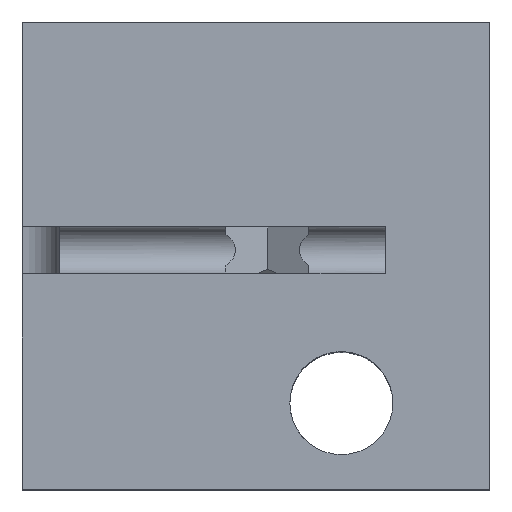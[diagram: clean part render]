
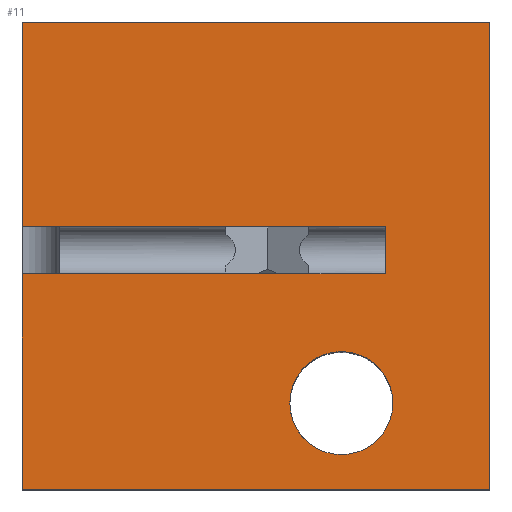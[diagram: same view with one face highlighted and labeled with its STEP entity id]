
A CAD part, top view. The second image highlights one B-rep face of the part: STEP entity #11.
In plain terms, the highlighted planar face has unit normal (0, 0, 1).
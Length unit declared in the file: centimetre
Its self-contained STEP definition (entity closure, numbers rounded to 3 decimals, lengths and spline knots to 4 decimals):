
#11 = ADVANCED_FACE ( 'NONE', ( #721, #1024 ), #741, .T. ) ;
#31 = VERTEX_POINT ( 'NONE', #2049 ) ;
#57 = LINE ( 'NONE', #2037, #244 ) ;
#82 = CARTESIAN_POINT ( 'NONE',  ( 776.3953, 562.9824, 1000. ) ) ;
#91 = DIRECTION ( 'NONE',  ( -1., 0., 0. ) ) ;
#107 = CARTESIAN_POINT ( 'NONE',  ( 0., 1000., 1000. ) ) ;
#117 = CARTESIAN_POINT ( 'NONE',  ( 0., 1000., 1000. ) ) ;
#139 = VERTEX_POINT ( 'NONE', #1969 ) ;
#176 = LINE ( 'NONE', #862, #1399 ) ;
#191 = DIRECTION ( 'NONE',  ( 0., 0., 1. ) ) ;
#227 = VERTEX_POINT ( 'NONE', #1339 ) ;
#238 = ORIENTED_EDGE ( 'NONE', *, *, #1208, .T. ) ;
#241 = VERTEX_POINT ( 'NONE', #999 ) ;
#244 = VECTOR ( 'NONE', #1862, 100. ) ;
#247 = VECTOR ( 'NONE', #806, 100. ) ;
#284 = LINE ( 'NONE', #1763, #247 ) ;
#336 = CARTESIAN_POINT ( 'NONE',  ( 682.7021, 184.3024, 1000. ) ) ;
#390 = VECTOR ( 'NONE', #1286, 100. ) ;
#457 = ORIENTED_EDGE ( 'NONE', *, *, #621, .T. ) ;
#459 = ORIENTED_EDGE ( 'NONE', *, *, #979, .T. ) ;
#476 = EDGE_CURVE ( 'NONE', #241, #31, #57, .T. ) ;
#481 = CIRCLE ( 'NONE', #1073, 110.3037 ) ;
#554 = DIRECTION ( 'NONE',  ( 1., 0., 0. ) ) ;
#563 = AXIS2_PLACEMENT_3D ( 'NONE', #336, #1804, #1815 ) ;
#621 = EDGE_CURVE ( 'NONE', #2168, #680, #952, .T. ) ;
#660 = CARTESIAN_POINT ( 'NONE',  ( 1000., 0., 1000. ) ) ;
#669 = CIRCLE ( 'NONE', #563, 110.3037 ) ;
#679 = EDGE_CURVE ( 'NONE', #1416, #2039, #669, .T. ) ;
#680 = VERTEX_POINT ( 'NONE', #117 ) ;
#696 = LINE ( 'NONE', #2045, #1832 ) ;
#721 = FACE_BOUND ( 'NONE', #1753, .T. ) ;
#724 = VERTEX_POINT ( 'NONE', #660 ) ;
#731 = CARTESIAN_POINT ( 'NONE',  ( 0., 0., 1000. ) ) ;
#741 = PLANE ( 'NONE',  #1772 ) ;
#778 = ORIENTED_EDGE ( 'NONE', *, *, #1434, .T. ) ;
#806 = DIRECTION ( 'NONE',  ( 0., -1., 0. ) ) ;
#821 = LINE ( 'NONE', #1171, #1020 ) ;
#822 = EDGE_CURVE ( 'NONE', #724, #2168, #176, .T. ) ;
#842 = DIRECTION ( 'NONE',  ( 0., 1., 0. ) ) ;
#862 = CARTESIAN_POINT ( 'NONE',  ( 1000., 1000., 1000. ) ) ;
#895 = ORIENTED_EDGE ( 'NONE', *, *, #476, .T. ) ;
#896 = CARTESIAN_POINT ( 'NONE',  ( 572.3984, 184.3024, 1000. ) ) ;
#952 = LINE ( 'NONE', #107, #1685 ) ;
#979 = EDGE_CURVE ( 'NONE', #2159, #227, #284, .T. ) ;
#999 = CARTESIAN_POINT ( 'NONE',  ( 776.3953, 562.9824, 1000. ) ) ;
#1020 = VECTOR ( 'NONE', #1160, 100. ) ;
#1024 = FACE_OUTER_BOUND ( 'NONE', #1351, .T. ) ;
#1037 = ORIENTED_EDGE ( 'NONE', *, *, #1396, .F. ) ;
#1072 = CARTESIAN_POINT ( 'NONE',  ( 0., 460.7638, 1000. ) ) ;
#1073 = AXIS2_PLACEMENT_3D ( 'NONE', #1238, #1925, #1217 ) ;
#1104 = ORIENTED_EDGE ( 'NONE', *, *, #679, .T. ) ;
#1110 = CARTESIAN_POINT ( 'NONE',  ( 776.3953, 460.7638, 1000. ) ) ;
#1130 = ORIENTED_EDGE ( 'NONE', *, *, #822, .T. ) ;
#1160 = DIRECTION ( 'NONE',  ( 0., -1., 0. ) ) ;
#1171 = CARTESIAN_POINT ( 'NONE',  ( 0., 1000., 1000. ) ) ;
#1181 = DIRECTION ( 'NONE',  ( 1., 0., 0. ) ) ;
#1189 = ORIENTED_EDGE ( 'NONE', *, *, #2104, .T. ) ;
#1208 = EDGE_CURVE ( 'NONE', #2039, #1416, #481, .T. ) ;
#1217 = DIRECTION ( 'NONE',  ( -1., 0., 0. ) ) ;
#1238 = CARTESIAN_POINT ( 'NONE',  ( 682.7021, 184.3024, 1000. ) ) ;
#1239 = ORIENTED_EDGE ( 'NONE', *, *, #1919, .T. ) ;
#1264 = LINE ( 'NONE', #82, #2082 ) ;
#1286 = DIRECTION ( 'NONE',  ( -1., 0., 0. ) ) ;
#1339 = CARTESIAN_POINT ( 'NONE',  ( 0., 0., 1000. ) ) ;
#1351 = EDGE_LOOP ( 'NONE', ( #1037, #895, #778, #459, #1189, #1130, #457, #1239 ) ) ;
#1396 = EDGE_CURVE ( 'NONE', #241, #139, #1264, .T. ) ;
#1399 = VECTOR ( 'NONE', #842, 100. ) ;
#1416 = VERTEX_POINT ( 'NONE', #2139 ) ;
#1434 = EDGE_CURVE ( 'NONE', #31, #2159, #2128, .T. ) ;
#1641 = DIRECTION ( 'NONE',  ( -1., 0., 0. ) ) ;
#1685 = VECTOR ( 'NONE', #1641, 100. ) ;
#1753 = EDGE_LOOP ( 'NONE', ( #238, #1104 ) ) ;
#1763 = CARTESIAN_POINT ( 'NONE',  ( 0., 1000., 1000. ) ) ;
#1772 = AXIS2_PLACEMENT_3D ( 'NONE', #731, #191, #554 ) ;
#1804 = DIRECTION ( 'NONE',  ( 0., 0., -1. ) ) ;
#1815 = DIRECTION ( 'NONE',  ( -1., 0., 0. ) ) ;
#1832 = VECTOR ( 'NONE', #1181, 100. ) ;
#1862 = DIRECTION ( 'NONE',  ( 0., -1., 0. ) ) ;
#1919 = EDGE_CURVE ( 'NONE', #680, #139, #821, .T. ) ;
#1925 = DIRECTION ( 'NONE',  ( 0., 0., -1. ) ) ;
#1966 = CARTESIAN_POINT ( 'NONE',  ( 1000., 1000., 1000. ) ) ;
#1969 = CARTESIAN_POINT ( 'NONE',  ( 0., 562.9824, 1000. ) ) ;
#2037 = CARTESIAN_POINT ( 'NONE',  ( 776.3953, 0., 1000. ) ) ;
#2039 = VERTEX_POINT ( 'NONE', #896 ) ;
#2045 = CARTESIAN_POINT ( 'NONE',  ( 0., 0., 1000. ) ) ;
#2049 = CARTESIAN_POINT ( 'NONE',  ( 776.3953, 460.7638, 1000. ) ) ;
#2082 = VECTOR ( 'NONE', #91, 100. ) ;
#2104 = EDGE_CURVE ( 'NONE', #227, #724, #696, .T. ) ;
#2128 = LINE ( 'NONE', #1110, #390 ) ;
#2139 = CARTESIAN_POINT ( 'NONE',  ( 793.0058, 184.3024, 1000. ) ) ;
#2159 = VERTEX_POINT ( 'NONE', #1072 ) ;
#2168 = VERTEX_POINT ( 'NONE', #1966 ) ;
